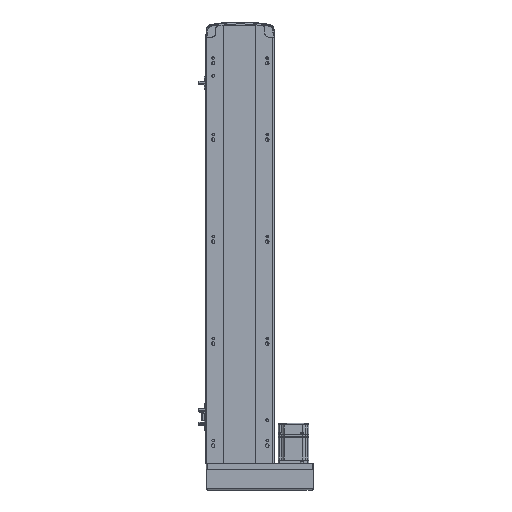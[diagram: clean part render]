
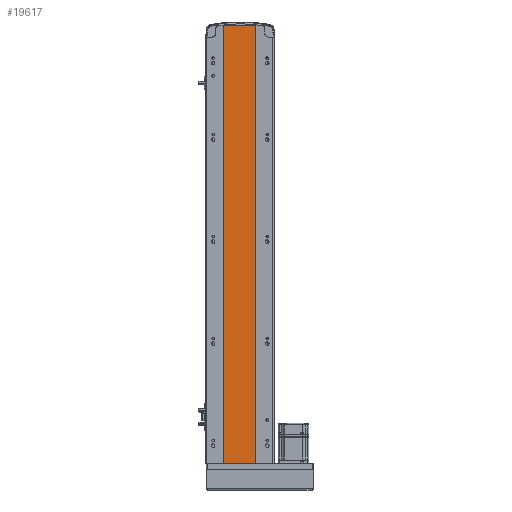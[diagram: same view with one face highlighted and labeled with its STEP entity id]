
A CAD part, front view. The second image highlights one B-rep face of the part: STEP entity #19617.
In plain terms, the highlighted planar face has unit normal (0, -1, 0).
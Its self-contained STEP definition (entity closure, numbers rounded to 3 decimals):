
#667 = CARTESIAN_POINT ( 'NONE',  ( -32., 1., 859. ) ) ;
#3073 = DIRECTION ( 'NONE',  ( 1., 0., 0. ) ) ;
#5926 = CARTESIAN_POINT ( 'NONE',  ( -32., 1., 0. ) ) ;
#8128 = ORIENTED_EDGE ( 'NONE', *, *, #27929, .T. ) ;
#10302 = CARTESIAN_POINT ( 'NONE',  ( -32., 1., 859. ) ) ;
#11329 = ORIENTED_EDGE ( 'NONE', *, *, #47181, .F. ) ;
#12391 = CARTESIAN_POINT ( 'NONE',  ( -32., 1., 0. ) ) ;
#12431 = DIRECTION ( 'NONE',  ( 1., 0., 0. ) ) ;
#13751 = VERTEX_POINT ( 'NONE', #32212 ) ;
#15010 = EDGE_LOOP ( 'NONE', ( #21523, #11329, #31760, #8128 ) ) ;
#17983 = CARTESIAN_POINT ( 'NONE',  ( 30., 1., 0. ) ) ;
#19297 = VECTOR ( 'NONE', #19439, 1000. ) ;
#19439 = DIRECTION ( 'NONE',  ( 0., 0., -1. ) ) ;
#19617 = ADVANCED_FACE ( 'NONE', ( #48770 ), #47780, .F. ) ;
#21280 = DIRECTION ( 'NONE',  ( 0., 1., 0. ) ) ;
#21523 = ORIENTED_EDGE ( 'NONE', *, *, #41552, .T. ) ;
#22011 = AXIS2_PLACEMENT_3D ( 'NONE', #25330, #21280, #56697 ) ;
#22192 = CARTESIAN_POINT ( 'NONE',  ( 30., 1., 859. ) ) ;
#22450 = LINE ( 'NONE', #47681, #54360 ) ;
#22925 = VERTEX_POINT ( 'NONE', #17983 ) ;
#25330 = CARTESIAN_POINT ( 'NONE',  ( -32., 1., 859. ) ) ;
#27929 = EDGE_CURVE ( 'NONE', #56964, #36247, #55089, .T. ) ;
#31113 = LINE ( 'NONE', #22192, #19297 ) ;
#31746 = DIRECTION ( 'NONE',  ( 0., 0., -1. ) ) ;
#31760 = ORIENTED_EDGE ( 'NONE', *, *, #51372, .F. ) ;
#32212 = CARTESIAN_POINT ( 'NONE',  ( 30., 1., 859. ) ) ;
#36247 = VERTEX_POINT ( 'NONE', #5926 ) ;
#36466 = VECTOR ( 'NONE', #3073, 1000. ) ;
#41552 = EDGE_CURVE ( 'NONE', #36247, #22925, #52378, .T. ) ;
#47181 = EDGE_CURVE ( 'NONE', #13751, #22925, #31113, .T. ) ;
#47681 = CARTESIAN_POINT ( 'NONE',  ( -32., 1., 859. ) ) ;
#47780 = PLANE ( 'NONE',  #22011 ) ;
#48770 = FACE_OUTER_BOUND ( 'NONE', #15010, .T. ) ;
#50916 = VECTOR ( 'NONE', #31746, 1000. ) ;
#51372 = EDGE_CURVE ( 'NONE', #56964, #13751, #22450, .T. ) ;
#52378 = LINE ( 'NONE', #12391, #36466 ) ;
#54360 = VECTOR ( 'NONE', #12431, 1000. ) ;
#55089 = LINE ( 'NONE', #667, #50916 ) ;
#56697 = DIRECTION ( 'NONE',  ( -1., 0., 0. ) ) ;
#56964 = VERTEX_POINT ( 'NONE', #10302 ) ;
